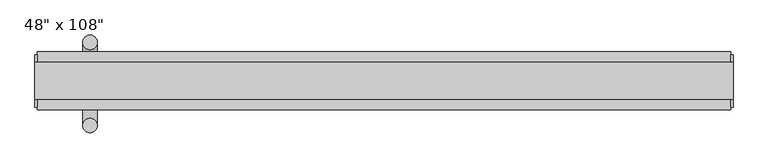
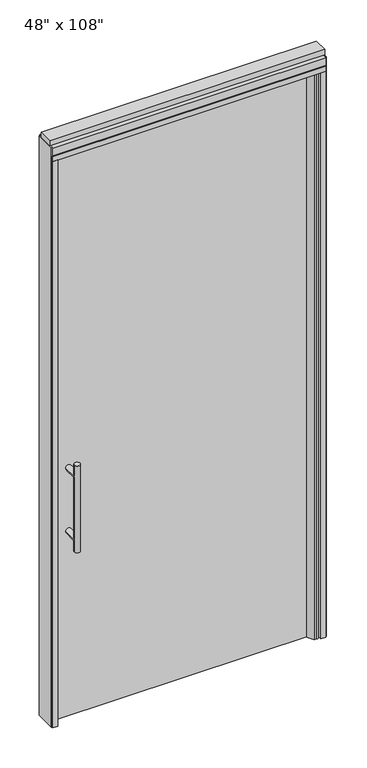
"""IFC4 building model written with IfcOpenShell, lengths in millimetres: furniture geometry."""

from ifc_helpers import new_model, si_unit, point, frame, frame_2d, origin, origin_with_axes, place, context, project, spatial, polyline, circle_curve, ellipse_curve, trimmed, segment, composite_curve, outline, extrude, source, transform, mapped, element, save
from ifc_brep_helpers import plane_surface, cylinder_surface, advanced_brep


def furniture_8766b1b4(model_context):
    return source(origin(), model_context, "Body", "SolidModel", [
        extrude(outline(polyline([(523.4014771, -14.6777216), (-643.4745229, -14.6777216), (-643.4745229, -4.5177216), (523.4014771, -4.5177216), (523.4014771, -14.6777216)])), origin_with_axes(), (0.0, 0.0, 1.0), 2654.3),
        advanced_brep(
        [(-586.1975229, 63.0462784, 1219.2), (-560.7975229, 63.0462784, 1219.2), (-586.1975229, 63.0462784, 812.8), (-560.7975229, 63.0462784, 812.8), (-560.7975229, 63.0462784, 1164.336), (-560.7975229, 63.0462784, 867.664), (-586.1975229, 63.0462784, 867.664), (-586.1975229, 63.0462784, 1164.336), (-586.1975229, -4.5177216, 1164.336), (-560.7975229, -4.5177216, 1164.336), (-586.1975229, -4.5177216, 867.664), (-560.7975229, -4.5177216, 867.664)],
        [
            (0, 1, circle_curve(frame((-573.4975229, 63.0462784, 1219.2), z_axis=(0.0, 0.0, 1.0), x_axis=(1.0, 0.0, 0.0)), 12.7)),
            (1, 0, circle_curve(frame((-573.4975229, 63.0462784, 1219.2), z_axis=(0.0, 0.0, 1.0), x_axis=(1.0, 0.0, 0.0)), 12.7)),
            (2, 3, circle_curve(frame((-573.4975229, 63.0462784, 812.8), z_axis=(0.0, 0.0, -1.0), x_axis=(1.0, 0.0, 0.0)), 12.7)),
            (3, 2, circle_curve(frame((-573.4975229, 63.0462784, 812.8), z_axis=(0.0, 0.0, -1.0), x_axis=(1.0, 0.0, 0.0)), 12.7)),
            (1, 4),
            (4, 5),
            (5, 3),
            (2, 6),
            (6, 7),
            (7, 0),
            (6, 5, ellipse_curve(frame((-573.4975229, 63.0462784, 867.664), z_axis=(0.0, 0.707106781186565, 0.70710678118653), x_axis=(0.0, -0.70710678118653, 0.707106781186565)), 17.9605122, 12.7)),
            (4, 7, ellipse_curve(frame((-573.4975229, 63.0462784, 1164.336), z_axis=(0.0, 0.70710678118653, -0.7071067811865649), x_axis=(0.0, 0.7071067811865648, 0.7071067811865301)), 17.9605122, 12.7)),
            (7, 4, ellipse_curve(frame((-573.4975229, 63.0462784, 1164.336), z_axis=(0.0, 0.707106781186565, 0.70710678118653), x_axis=(0.0, -0.70710678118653, 0.707106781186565)), 17.9605122, 12.7)),
            (5, 6, ellipse_curve(frame((-573.4975229, 63.0462784, 867.664), z_axis=(0.0, 0.70710678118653, -0.7071067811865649), x_axis=(0.0, 0.7071067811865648, 0.7071067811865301)), 17.9605122, 12.7)),
            (8, 9, circle_curve(frame((-573.4975229, -4.5177216, 1164.336), z_axis=(0.0, -1.0, 0.0), x_axis=(1.0, 0.0, 0.0)), 12.7)),
            (9, 8, circle_curve(frame((-573.4975229, -4.5177216, 1164.336), z_axis=(0.0, -1.0, 0.0), x_axis=(1.0, 0.0, 0.0)), 12.7)),
            (8, 7),
            (4, 9),
            (10, 11, circle_curve(frame((-573.4975229, -4.5177216, 867.664), z_axis=(0.0, -1.0, 0.0), x_axis=(1.0, 0.0, 0.0)), 12.7)),
            (11, 10, circle_curve(frame((-573.4975229, -4.5177216, 867.664), z_axis=(0.0, -1.0, 0.0), x_axis=(1.0, 0.0, 0.0)), 12.7)),
            (10, 6),
            (5, 11),
        ],
        [
            plane_surface(frame((-560.7975229, 63.0462784, 1219.2), z_axis=(0.0, 0.0, 1.0), x_axis=(0.0, -1.0, 0.0))),
            plane_surface(frame((-560.7975229, 63.0462784, 812.8), z_axis=(0.0, 0.0, -1.0), x_axis=(0.0, 1.0, 0.0))),
            cylinder_surface(frame((-573.4975229, 63.0462784, 812.8), z_axis=(0.0, 0.0, 1.0), x_axis=(1.0, 0.0, 0.0)), 12.7),
            plane_surface(frame((-560.7975229, -4.5177216, 1164.336), z_axis=(0.0, -1.0, 0.0), x_axis=(0.0, 0.0, -1.0))),
            cylinder_surface(frame((-573.4975229, -4.5177216, 1164.336), z_axis=(0.0, 1.0, 0.0), x_axis=(1.0, 0.0, 0.0)), 12.7),
            plane_surface(frame((-560.7975229, -4.5177216, 867.664), z_axis=(0.0, -1.0, 0.0), x_axis=(0.0, 0.0, -1.0))),
            cylinder_surface(frame((-573.4975229, -4.5177216, 867.664), z_axis=(0.0, 1.0, 0.0), x_axis=(1.0, 0.0, 0.0)), 12.7),
        ],
        [
            (0, [[1, 2]]),
            (1, [[3, 4]]),
            (2, [[5, 6, 7, -3, 8, 9, 10, -2]]),
            (2, [[-9, 11, -6, 12]]),
            (2, [[-10, 13, -5, -1]]),
            (2, [[-7, 14, -8, -4]]),
            (3, [[15, 16]]),
            (4, [[17, -12, 18, -15]]),
            (4, [[-18, -13, -17, -16]]),
            (5, [[19, 20]]),
            (6, [[21, -14, 22, -19]]),
            (6, [[-22, -11, -21, -20]]),
        ],
    ),
        advanced_brep(
        [(-586.1975229, -82.2417216, 1219.2), (-560.7975229, -82.2417216, 1219.2), (-586.1975229, -82.2417216, 812.8), (-560.7975229, -82.2417216, 812.8), (-586.1975229, -82.2417216, 1164.336), (-586.1975229, -82.2417216, 867.664), (-560.7975229, -82.2417216, 867.664), (-560.7975229, -82.2417216, 1164.336), (-586.1975229, -14.6777216, 1164.336), (-560.7975229, -14.6777216, 1164.336), (-586.1975229, -14.6777216, 867.664), (-560.7975229, -14.6777216, 867.664)],
        [
            (0, 1, circle_curve(frame((-573.4975229, -82.2417216, 1219.2), z_axis=(0.0, 0.0, 1.0), x_axis=(1.0, 0.0, 0.0)), 12.7)),
            (1, 0, circle_curve(frame((-573.4975229, -82.2417216, 1219.2), z_axis=(0.0, 0.0, 1.0), x_axis=(1.0, 0.0, 0.0)), 12.7)),
            (2, 3, circle_curve(frame((-573.4975229, -82.2417216, 812.8), z_axis=(0.0, 0.0, -1.0), x_axis=(1.0, 0.0, 0.0)), 12.7)),
            (3, 2, circle_curve(frame((-573.4975229, -82.2417216, 812.8), z_axis=(0.0, 0.0, -1.0), x_axis=(1.0, 0.0, 0.0)), 12.7)),
            (0, 4),
            (4, 5),
            (5, 2),
            (3, 6),
            (6, 7),
            (7, 1),
            (7, 4, ellipse_curve(frame((-573.4975229, -82.2417216, 1164.336), z_axis=(0.0, -0.707106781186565, 0.70710678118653), x_axis=(0.0, 0.70710678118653, 0.707106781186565)), 17.9605122, 12.7)),
            (5, 6, ellipse_curve(frame((-573.4975229, -82.2417216, 867.664), z_axis=(0.0, -0.70710678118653, -0.7071067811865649), x_axis=(0.0, -0.7071067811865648, 0.7071067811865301)), 17.9605122, 12.7)),
            (4, 7, ellipse_curve(frame((-573.4975229, -82.2417216, 1164.336), z_axis=(0.0, -0.70710678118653, -0.7071067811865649), x_axis=(0.0, -0.7071067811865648, 0.7071067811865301)), 17.9605122, 12.7)),
            (6, 5, ellipse_curve(frame((-573.4975229, -82.2417216, 867.664), z_axis=(0.0, -0.707106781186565, 0.70710678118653), x_axis=(0.0, 0.70710678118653, 0.707106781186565)), 17.9605122, 12.7)),
            (8, 9, circle_curve(frame((-573.4975229, -14.6777216, 1164.336), z_axis=(0.0, 1.0, 0.0), x_axis=(1.0, 0.0, 0.0)), 12.7)),
            (9, 8, circle_curve(frame((-573.4975229, -14.6777216, 1164.336), z_axis=(0.0, 1.0, 0.0), x_axis=(1.0, 0.0, 0.0)), 12.7)),
            (9, 7),
            (4, 8),
            (10, 11, circle_curve(frame((-573.4975229, -14.6777216, 867.664), z_axis=(0.0, 1.0, 0.0), x_axis=(1.0, 0.0, 0.0)), 12.7)),
            (11, 10, circle_curve(frame((-573.4975229, -14.6777216, 867.664), z_axis=(0.0, 1.0, 0.0), x_axis=(1.0, 0.0, 0.0)), 12.7)),
            (11, 6),
            (5, 10),
        ],
        [
            plane_surface(frame((-560.7975229, -82.2417216, 1219.2), z_axis=(0.0, 0.0, 1.0), x_axis=(0.0, 1.0, 0.0))),
            plane_surface(frame((-560.7975229, -82.2417216, 812.8), z_axis=(0.0, 0.0, -1.0), x_axis=(0.0, -1.0, 0.0))),
            cylinder_surface(frame((-573.4975229, -82.2417216, 812.8), z_axis=(0.0, 0.0, 1.0), x_axis=(1.0, 0.0, 0.0)), 12.7),
            plane_surface(frame((-560.7975229, -14.6777216, 1164.336), z_axis=(0.0, 1.0, 0.0), x_axis=(0.0, 0.0, -1.0))),
            cylinder_surface(frame((-573.4975229, -14.6777216, 1164.336), z_axis=(0.0, -1.0, 0.0), x_axis=(1.0, 0.0, 0.0)), 12.7),
            plane_surface(frame((-560.7975229, -14.6777216, 867.664), z_axis=(0.0, 1.0, 0.0), x_axis=(0.0, 0.0, -1.0))),
            cylinder_surface(frame((-573.4975229, -14.6777216, 867.664), z_axis=(0.0, -1.0, 0.0), x_axis=(1.0, 0.0, 0.0)), 12.7),
        ],
        [
            (0, [[1, 2]]),
            (1, [[3, 4]]),
            (2, [[-1, 5, 6, 7, -4, 8, 9, 10]]),
            (2, [[-2, -10, 11, -5]]),
            (2, [[-3, -7, 12, -8]]),
            (2, [[13, -9, 14, -6]]),
            (3, [[15, 16]]),
            (4, [[-16, 17, -13, 18]]),
            (4, [[-15, -18, -11, -17]]),
            (5, [[19, 20]]),
            (6, [[-20, 21, -12, 22]]),
            (6, [[-19, -22, -14, -21]]),
        ],
    ),
        extrude(outline(polyline([(510.0664771, 4.6262784), (510.0664771, -4.5177216), (481.3644771, -4.5177216), (481.3644771, 4.6262784), (510.0664771, 4.6262784)])), origin_with_axes(), (0.0, 0.0, 1.0), 2654.3),
        extrude(outline(composite_curve([segment(polyline([(481.3644771, -14.6777216), (523.4014771, -14.6777216), (523.4014771, -34.1849216)]), True, "CONTINUOUS"), segment(trimmed(circle_curve(frame_2d((506.2835293, -30.8880433)), 17.4325427), [point((523.4014771, -34.1849216))], [point((509.6249103, -47.99736))], False, "CARTESIAN"), True, "CONTINUOUS"), segment(polyline([(509.6249103, -47.99736), (497.3794728, -47.99736), (481.3644771, -20.2657216), (481.3644771, -14.6777216)]), True, "CONTINUOUS")], self_intersect=False)), origin_with_axes(), (0.0, 0.0, 1.0), 2654.3),
        extrude(outline(polyline([(-665.6995229, 46.2822784), (-643.4745229, 46.2822784), (-643.4745229, 20.8822784), (-630.7745229, 20.8822784), (-630.7745229, -4.5177216), (-643.4745229, -4.5177216), (-643.4745229, -55.3177216), (-665.6995229, -55.3177216), (-665.6995229, 46.2822784)])), origin_with_axes(), (0.0, 0.0, 1.0), 2654.3),
        extrude(outline(polyline([(-665.6995229, -55.3177216), (-665.6995229, 46.2822784), (545.6264771, 46.2822784), (545.6264771, -55.3177216), (-665.6995229, -55.3177216)])), frame((0.0, 0.0, 2654.3), z_axis=(0.0, 0.0, 1.0), x_axis=(1.0, 0.0, 0.0)), (0.0, 0.0, 1.0), 22.225),
        extrude(outline(polyline([(549.5634771, -50.3647216), (545.6264771, -50.3647216), (545.6264771, 41.3292784), (549.5634771, 41.3292784), (549.5634771, -50.3647216)])), origin_with_axes(), (0.0, 0.0, 1.0), 2717.8),
        extrude(outline(polyline([(-669.6365229, -50.3647216), (-669.6365229, 41.3292784), (-665.6995229, 41.3292784), (-665.6995229, -50.3647216), (-669.6365229, -50.3647216)])), origin_with_axes(), (0.0, 0.0, 1.0), 2717.8),
        extrude(outline(polyline([(545.6264771, 46.2822784), (545.6264771, -55.3177216), (523.4014771, -55.3177216), (523.4014771, -4.5177216), (510.7014771, -4.5177216), (510.7014771, 20.8822784), (523.4014771, 20.8822784), (523.4014771, 46.2822784), (545.6264771, 46.2822784)])), origin_with_axes(), (0.0, 0.0, 1.0), 2654.3),
        extrude(outline(polyline([(-55.3177216, 2681.478), (-55.3177216, 2717.8), (46.2822784, 2717.8), (46.2822784, 2681.478), (41.3292784, 2681.478), (41.3292784, 2676.525), (-50.3647216, 2676.525), (-50.3647216, 2681.478), (-55.3177216, 2681.478)])), frame((-665.6995229, 0.0, 0.0), z_axis=(1.0, 0.0, 0.0), x_axis=(0.0, 1.0, 0.0)), (0.0, 0.0, 1.0), 1211.326),
        extrude(outline(polyline([(-669.6365229, -37.0297216), (-669.6365229, 27.9942784), (549.5634771, 27.9942784), (549.5634771, -37.0297216), (-669.6365229, -37.0297216)])), frame((0.0, 0.0, 2717.8), z_axis=(0.0, 0.0, 1.0), x_axis=(1.0, 0.0, 0.0)), (0.0, 0.0, 1.0), 25.4),
    ])


if __name__ == "__main__":
    model = new_model("IFC4")
    model_context = context("Model", 3, world=origin())
    ifc_project = project(units=[si_unit("LENGTHUNIT", "METRE", prefix="MILLI")], contexts=[model_context])
    site = spatial("IfcSite", under=ifc_project)
    building = spatial("IfcBuilding", under=site)
    placement = place(None, origin())
    furniture_shape = furniture_8766b1b4(model_context)
    element("IfcFurniture", 1, ObjectType="Haworth_EncloseFrameless_Door_SingleSwing : 48\" x 108\"", at=placement, inside=building, context=model_context, shape_type="MappedRepresentation", body=[
        mapped(furniture_shape, transform((0.0, 0.0, 0.0), x_axis=(1.0, 0.0, 0.0), y_axis=(0.0, 1.0, 0.0), z_axis=(0.0, 0.0, 1.0))),
    ])
    save(model, "model.ifc")
